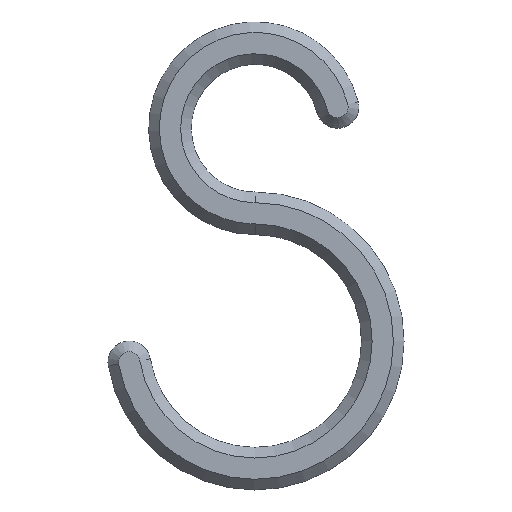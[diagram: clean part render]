
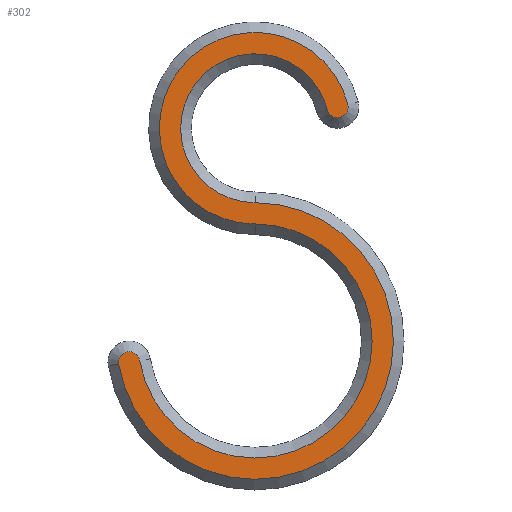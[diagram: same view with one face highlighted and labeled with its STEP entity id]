
A CAD part, top view. The second image highlights one B-rep face of the part: STEP entity #302.
In plain terms, the highlighted planar face has unit normal (0, 0, 1).
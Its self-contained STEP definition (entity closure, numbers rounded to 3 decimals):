
#16=PLANE('',#360);
#40=FACE_OUTER_BOUND('',#60,.T.);
#60=EDGE_LOOP('',(#259,#260,#261,#262,#263,#264));
#78=CIRCLE('',#345,22.5);
#80=CIRCLE('',#348,27.5);
#81=CIRCLE('',#350,2.5);
#82=CIRCLE('',#352,32.5);
#83=CIRCLE('',#354,17.5);
#86=CIRCLE('',#358,2.5);
#139=VERTEX_POINT('',#524);
#140=VERTEX_POINT('',#526);
#142=VERTEX_POINT('',#532);
#143=VERTEX_POINT('',#536);
#144=VERTEX_POINT('',#540);
#146=VERTEX_POINT('',#545);
#173=EDGE_CURVE('',#139,#140,#78,.T.);
#177=EDGE_CURVE('',#142,#139,#80,.T.);
#179=EDGE_CURVE('',#143,#142,#81,.T.);
#181=EDGE_CURVE('',#144,#143,#82,.T.);
#183=EDGE_CURVE('',#146,#144,#83,.T.);
#186=EDGE_CURVE('',#140,#146,#86,.T.);
#259=ORIENTED_EDGE('',*,*,#173,.F.);
#260=ORIENTED_EDGE('',*,*,#177,.F.);
#261=ORIENTED_EDGE('',*,*,#179,.F.);
#262=ORIENTED_EDGE('',*,*,#181,.F.);
#263=ORIENTED_EDGE('',*,*,#183,.F.);
#264=ORIENTED_EDGE('',*,*,#186,.F.);
#302=ADVANCED_FACE('',(#40),#16,.T.);
#345=AXIS2_PLACEMENT_3D('',#527,#428,#429);
#348=AXIS2_PLACEMENT_3D('',#534,#436,#437);
#350=AXIS2_PLACEMENT_3D('',#538,#441,#442);
#352=AXIS2_PLACEMENT_3D('',#542,#446,#447);
#354=AXIS2_PLACEMENT_3D('',#547,#451,#452);
#358=AXIS2_PLACEMENT_3D('',#551,#459,#460);
#360=AXIS2_PLACEMENT_3D('',#554,#464,#465);
#428=DIRECTION('center_axis',(0.,0.,-1.));
#429=DIRECTION('ref_axis',(-1.,0.,0.));
#436=DIRECTION('center_axis',(0.,0.,1.));
#437=DIRECTION('ref_axis',(1.,0.,0.));
#441=DIRECTION('center_axis',(0.,0.,-1.));
#442=DIRECTION('ref_axis',(-0.764,0.645,0.));
#446=DIRECTION('center_axis',(0.,0.,-1.));
#447=DIRECTION('ref_axis',(1.,0.,0.));
#451=DIRECTION('center_axis',(0.,0.,1.));
#452=DIRECTION('ref_axis',(-1.,0.,0.));
#459=DIRECTION('center_axis',(0.,0.,-1.));
#460=DIRECTION('ref_axis',(0.791,-0.612,0.));
#464=DIRECTION('center_axis',(0.,0.,1.));
#465=DIRECTION('ref_axis',(1.,0.,0.));
#524=CARTESIAN_POINT('',(0.,-2.5,10.));
#526=CARTESIAN_POINT('',(21.786,25.625,10.));
#527=CARTESIAN_POINT('Origin',(0.,20.,10.));
#532=CARTESIAN_POINT('',(-27.115,-34.583,10.));
#534=CARTESIAN_POINT('Origin',(0.,-30.,10.));
#536=CARTESIAN_POINT('',(-32.045,-35.417,10.));
#538=CARTESIAN_POINT('Origin',(-29.58,-35.,10.));
#540=CARTESIAN_POINT('',(0.,2.5,10.));
#542=CARTESIAN_POINT('Origin',(0.,-30.,10.));
#545=CARTESIAN_POINT('',(16.944,24.375,10.));
#547=CARTESIAN_POINT('Origin',(0.,20.,10.));
#551=CARTESIAN_POINT('Origin',(19.365,25.,10.));
#554=CARTESIAN_POINT('Origin',(0.,-10.,10.));
